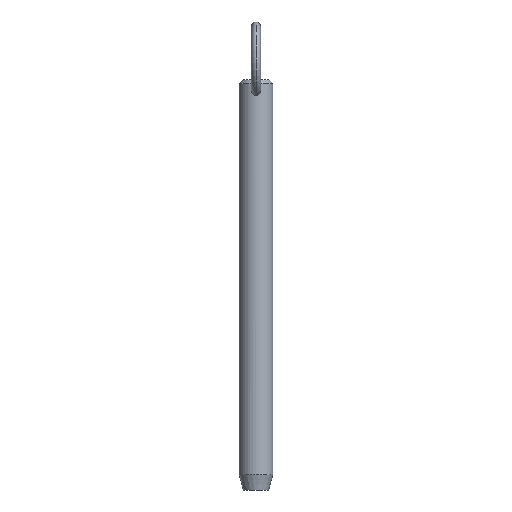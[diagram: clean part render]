
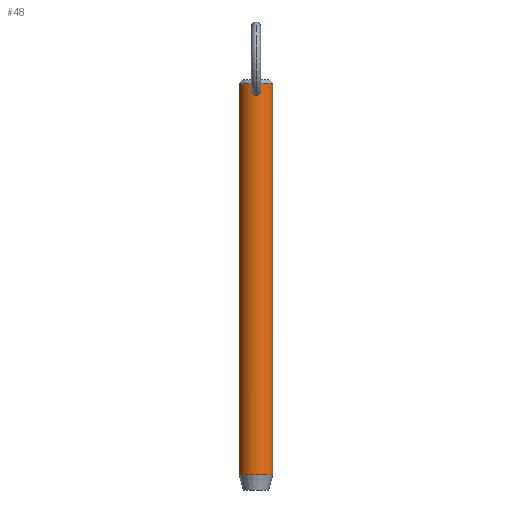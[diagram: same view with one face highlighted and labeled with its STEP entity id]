
A CAD part, front view. The second image highlights one B-rep face of the part: STEP entity #48.
In plain terms, the highlighted cylindrical face has radius 5.55 mm (diameter 11.1 mm), a partial arc.
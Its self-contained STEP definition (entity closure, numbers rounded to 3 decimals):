
#9 = CARTESIAN_POINT ( 'NONE',  ( -5.55, 0., -9.2 ) ) ;
#25 = VERTEX_POINT ( 'NONE', #163 ) ;
#35 = EDGE_LOOP ( 'NONE', ( #248, #225, #328, #472 ) ) ;
#36 = CARTESIAN_POINT ( 'NONE',  ( -1.485, -5.348, 117.479 ) ) ;
#38 = CARTESIAN_POINT ( 'NONE',  ( -1.294, -5.398, 118.086 ) ) ;
#48 = ADVANCED_FACE ( 'NONE', ( #64, #214 ), #171, .T. ) ;
#52 = CARTESIAN_POINT ( 'NONE',  ( -0.416, -5.535, 118.967 ) ) ;
#62 = DIRECTION ( 'NONE',  ( 0., 0., -1. ) ) ;
#64 = FACE_OUTER_BOUND ( 'NONE', #35, .T. ) ;
#68 = CARTESIAN_POINT ( 'NONE',  ( 0.214, -5.547, 119.028 ) ) ;
#70 = CARTESIAN_POINT ( 'NONE',  ( 1.295, -5.397, 118.082 ) ) ;
#73 = CARTESIAN_POINT ( 'NONE',  ( 0.106, -5.55, 119.045 ) ) ;
#83 = CARTESIAN_POINT ( 'NONE',  ( 0.421, -5.535, 115.632 ) ) ;
#93 = CARTESIAN_POINT ( 'NONE',  ( -0.513, -5.527, 118.923 ) ) ;
#99 = EDGE_CURVE ( 'NONE', #455, #413, #464, .T. ) ;
#113 = B_SPLINE_CURVE_WITH_KNOTS ( 'NONE', 3,
 ( #353, #489, #245, #527, #128, #397, #126, #320, #360, #445, #169, #526, #280, #405, #282, #36, #283, #38, #402, #218, #288, #93, #52, #416, #465, #332 ),
 .UNSPECIFIED., .F., .F.,
 ( 4, 2, 2, 2, 2, 2, 2, 2, 2, 2, 2, 2, 4 ),
 ( 0.01, 0.01, 0.01, 0.011, 0.011, 0.012, 0.012, 0.012, 0.013, 0.013, 0.014, 0.014, 0.015 ),
 .UNSPECIFIED. ) ;
#126 = CARTESIAN_POINT ( 'NONE',  ( -0.807, -5.492, 115.805 ) ) ;
#128 = CARTESIAN_POINT ( 'NONE',  ( -0.523, -5.526, 115.666 ) ) ;
#129 = EDGE_CURVE ( 'NONE', #413, #455, #113, .T. ) ;
#130 = CARTESIAN_POINT ( 'NONE',  ( 1.44, -5.36, 117.686 ) ) ;
#144 = VECTOR ( 'NONE', #452, 1000. ) ;
#163 = CARTESIAN_POINT ( 'NONE',  ( -5.55, 0., 119.35 ) ) ;
#167 = CARTESIAN_POINT ( 'NONE',  ( 0.716, -5.504, 115.752 ) ) ;
#169 = CARTESIAN_POINT ( 'NONE',  ( -1.362, -5.381, 116.432 ) ) ;
#171 = CYLINDRICAL_SURFACE ( 'NONE', #186, 5.55 ) ;
#172 = CARTESIAN_POINT ( 'NONE',  ( 1.477, -5.35, 116.844 ) ) ;
#173 = CARTESIAN_POINT ( 'NONE',  ( 0.807, -5.492, 115.806 ) ) ;
#174 = CARTESIAN_POINT ( 'NONE',  ( 1.363, -5.38, 116.434 ) ) ;
#175 = EDGE_CURVE ( 'NONE', #494, #262, #504, .T. ) ;
#186 = AXIS2_PLACEMENT_3D ( 'NONE', #340, #62, #239 ) ;
#192 = CARTESIAN_POINT ( 'NONE',  ( 5.55, 0., 114.3 ) ) ;
#193 = CARTESIAN_POINT ( 'NONE',  ( 0.417, -5.535, 118.967 ) ) ;
#197 = LINE ( 'NONE', #312, #144 ) ;
#214 = FACE_BOUND ( 'NONE', #363, .T. ) ;
#218 = CARTESIAN_POINT ( 'NONE',  ( -0.939, -5.472, 118.61 ) ) ;
#225 = ORIENTED_EDGE ( 'NONE', *, *, #459, .T. ) ;
#229 = CARTESIAN_POINT ( 'NONE',  ( 0., 0., -9.2 ) ) ;
#231 = CARTESIAN_POINT ( 'NONE',  ( 0.515, -5.527, 118.922 ) ) ;
#237 = CARTESIAN_POINT ( 'NONE',  ( 0., -5.55, 119.045 ) ) ;
#239 = DIRECTION ( 'NONE',  ( -1., 0., 0. ) ) ;
#245 = CARTESIAN_POINT ( 'NONE',  ( -0.212, -5.547, 115.588 ) ) ;
#246 = CARTESIAN_POINT ( 'NONE',  ( 0., -5.55, 119.045 ) ) ;
#247 = CARTESIAN_POINT ( 'NONE',  ( 0.523, -5.526, 115.666 ) ) ;
#248 = ORIENTED_EDGE ( 'NONE', *, *, #329, .F. ) ;
#249 = VECTOR ( 'NONE', #471, 1000. ) ;
#262 = VERTEX_POINT ( 'NONE', #345 ) ;
#267 = ORIENTED_EDGE ( 'NONE', *, *, #99, .T. ) ;
#271 = CARTESIAN_POINT ( 'NONE',  ( 0.941, -5.471, 118.607 ) ) ;
#272 = CARTESIAN_POINT ( 'NONE',  ( 5.55, 0., 119.35 ) ) ;
#280 = CARTESIAN_POINT ( 'NONE',  ( -1.477, -5.35, 116.842 ) ) ;
#282 = CARTESIAN_POINT ( 'NONE',  ( -1.503, -5.343, 117.159 ) ) ;
#283 = CARTESIAN_POINT ( 'NONE',  ( -1.44, -5.36, 117.687 ) ) ;
#288 = CARTESIAN_POINT ( 'NONE',  ( -0.785, -5.497, 118.758 ) ) ;
#305 = CARTESIAN_POINT ( 'NONE',  ( 1.194, -5.422, 118.271 ) ) ;
#312 = CARTESIAN_POINT ( 'NONE',  ( -5.55, 0., 114.3 ) ) ;
#314 = CARTESIAN_POINT ( 'NONE',  ( 0.977, -5.464, 115.932 ) ) ;
#317 = AXIS2_PLACEMENT_3D ( 'NONE', #229, #477, #505 ) ;
#318 = CARTESIAN_POINT ( 'NONE',  ( 1.486, -5.347, 117.474 ) ) ;
#320 = CARTESIAN_POINT ( 'NONE',  ( -0.976, -5.464, 115.931 ) ) ;
#328 = ORIENTED_EDGE ( 'NONE', *, *, #425, .T. ) ;
#329 = EDGE_CURVE ( 'NONE', #334, #262, #470, .T. ) ;
#332 = CARTESIAN_POINT ( 'NONE',  ( 0., -5.55, 119.045 ) ) ;
#334 = VERTEX_POINT ( 'NONE', #272 ) ;
#339 = AXIS2_PLACEMENT_3D ( 'NONE', #368, #414, #409 ) ;
#340 = CARTESIAN_POINT ( 'NONE',  ( 0., 0., 114.3 ) ) ;
#345 = CARTESIAN_POINT ( 'NONE',  ( 5.55, 0., -9.2 ) ) ;
#353 = CARTESIAN_POINT ( 'NONE',  ( 0., -5.55, 115.577 ) ) ;
#354 = CARTESIAN_POINT ( 'NONE',  ( 0.107, -5.55, 115.577 ) ) ;
#360 = CARTESIAN_POINT ( 'NONE',  ( -1.054, -5.449, 116.004 ) ) ;
#363 = EDGE_LOOP ( 'NONE', ( #267, #491 ) ) ;
#368 = CARTESIAN_POINT ( 'NONE',  ( 0., 0., 119.35 ) ) ;
#393 = CARTESIAN_POINT ( 'NONE',  ( 1.455, -5.356, 116.738 ) ) ;
#394 = CARTESIAN_POINT ( 'NONE',  ( 0., -5.55, 115.577 ) ) ;
#397 = CARTESIAN_POINT ( 'NONE',  ( -0.716, -5.504, 115.752 ) ) ;
#402 = CARTESIAN_POINT ( 'NONE',  ( -1.195, -5.421, 118.271 ) ) ;
#403 = CARTESIAN_POINT ( 'NONE',  ( 1.055, -5.449, 116.005 ) ) ;
#405 = CARTESIAN_POINT ( 'NONE',  ( -1.5, -5.343, 117.053 ) ) ;
#409 = DIRECTION ( 'NONE',  ( 1., 0., 0. ) ) ;
#413 = VERTEX_POINT ( 'NONE', #394 ) ;
#414 = DIRECTION ( 'NONE',  ( 0., 0., -1. ) ) ;
#416 = CARTESIAN_POINT ( 'NONE',  ( -0.211, -5.547, 119.029 ) ) ;
#425 = EDGE_CURVE ( 'NONE', #25, #494, #197, .T. ) ;
#445 = CARTESIAN_POINT ( 'NONE',  ( -1.26, -5.407, 116.242 ) ) ;
#447 = CARTESIAN_POINT ( 'NONE',  ( 0.213, -5.547, 115.588 ) ) ;
#449 = CARTESIAN_POINT ( 'NONE',  ( 1.503, -5.343, 117.159 ) ) ;
#452 = DIRECTION ( 'NONE',  ( 0., 0., -1. ) ) ;
#455 = VERTEX_POINT ( 'NONE', #246 ) ;
#459 = EDGE_CURVE ( 'NONE', #334, #25, #461, .T. ) ;
#461 = CIRCLE ( 'NONE', #339, 5.55 ) ;
#464 = B_SPLINE_CURVE_WITH_KNOTS ( 'NONE', 3,
 ( #237, #73, #68, #193, #231, #510, #271, #305, #70, #130, #318, #449, #520, #172, #393, #174, #487, #403, #314, #173, #167, #247, #83, #447, #354, #523 ),
 .UNSPECIFIED., .F., .F.,
 ( 4, 2, 2, 2, 2, 2, 2, 2, 2, 2, 2, 2, 4 ),
 ( 0.005, 0.005, 0.005, 0.006, 0.006, 0.007, 0.007, 0.008, 0.008, 0.009, 0.009, 0.009, 0.01 ),
 .UNSPECIFIED. ) ;
#465 = CARTESIAN_POINT ( 'NONE',  ( -0.106, -5.55, 119.045 ) ) ;
#470 = LINE ( 'NONE', #192, #249 ) ;
#471 = DIRECTION ( 'NONE',  ( 0., 0., -1. ) ) ;
#472 = ORIENTED_EDGE ( 'NONE', *, *, #175, .T. ) ;
#477 = DIRECTION ( 'NONE',  ( 0., 0., 1. ) ) ;
#487 = CARTESIAN_POINT ( 'NONE',  ( 1.26, -5.407, 116.243 ) ) ;
#489 = CARTESIAN_POINT ( 'NONE',  ( -0.107, -5.55, 115.577 ) ) ;
#491 = ORIENTED_EDGE ( 'NONE', *, *, #129, .T. ) ;
#494 = VERTEX_POINT ( 'NONE', #9 ) ;
#504 = CIRCLE ( 'NONE', #317, 5.55 ) ;
#505 = DIRECTION ( 'NONE',  ( -1., 0., 0. ) ) ;
#510 = CARTESIAN_POINT ( 'NONE',  ( 0.786, -5.497, 118.757 ) ) ;
#520 = CARTESIAN_POINT ( 'NONE',  ( 1.5, -5.343, 117.054 ) ) ;
#523 = CARTESIAN_POINT ( 'NONE',  ( 0., -5.55, 115.577 ) ) ;
#526 = CARTESIAN_POINT ( 'NONE',  ( -1.455, -5.356, 116.736 ) ) ;
#527 = CARTESIAN_POINT ( 'NONE',  ( -0.42, -5.535, 115.632 ) ) ;
